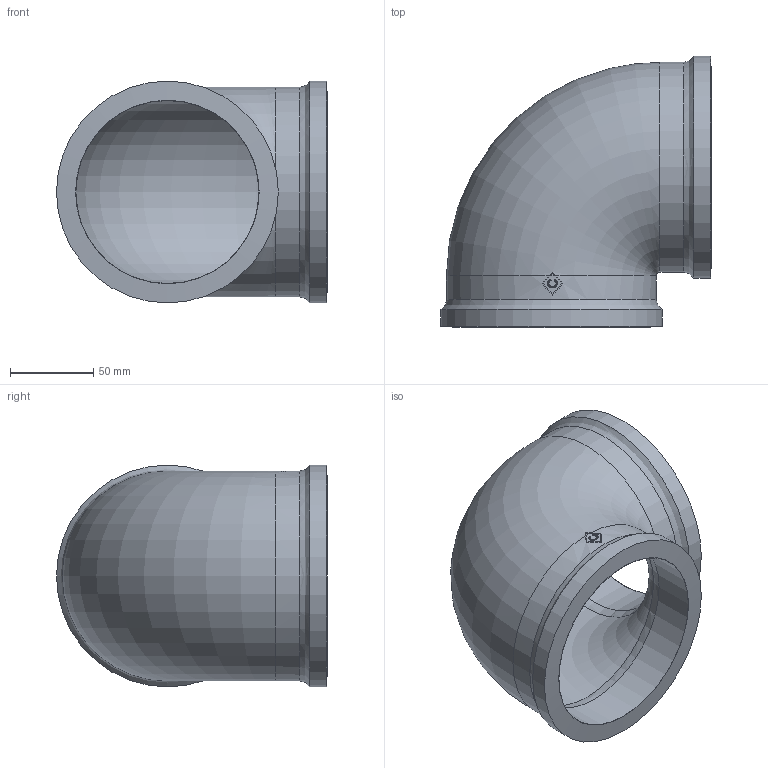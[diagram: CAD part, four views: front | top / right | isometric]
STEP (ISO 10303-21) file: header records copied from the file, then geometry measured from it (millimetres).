
FILE_DESCRIPTION((''),'2;1');
FILE_NAME('P:\Fastrack\53909_CRANE\Crane\Fig.151 Elbow\New 4.00 inch\151-4.00.stp','2009-09-15T16:20:09',('btaylor'),(''),'Autodesk Inventor 2008','Autodesk Inventor 2008','');
FILE_SCHEMA(('AUTOMOTIVE_DESIGN { 1 0 10303 214 1 1 1 1 }'));
Length unit declared in the file: millimetre
Products named in the file (1): 151-4.00
Bounding box: 163 x 163 x 133.4 mm (x, y, z)
Volume: 471740 mm3; surface area: 133402 mm2
Topology: 1 solids, 1 shells, 39 faces, 102 edges, 66 vertices
Faces by surface type: bspline 14, plane 12, cylinder 7, torus 4, cone 2
Full cylindrical faces by diameter (mm): 126.2 x2, 133.4 x2
Entity records: 1470 total; most frequent: CARTESIAN_POINT 630, ORIENTED_EDGE 162, DIRECTION 148, EDGE_CURVE 81, AXIS2_PLACEMENT_3D 65, VERTEX_POINT 59, EDGE_LOOP 56, FACE_OUTER_BOUND 39
